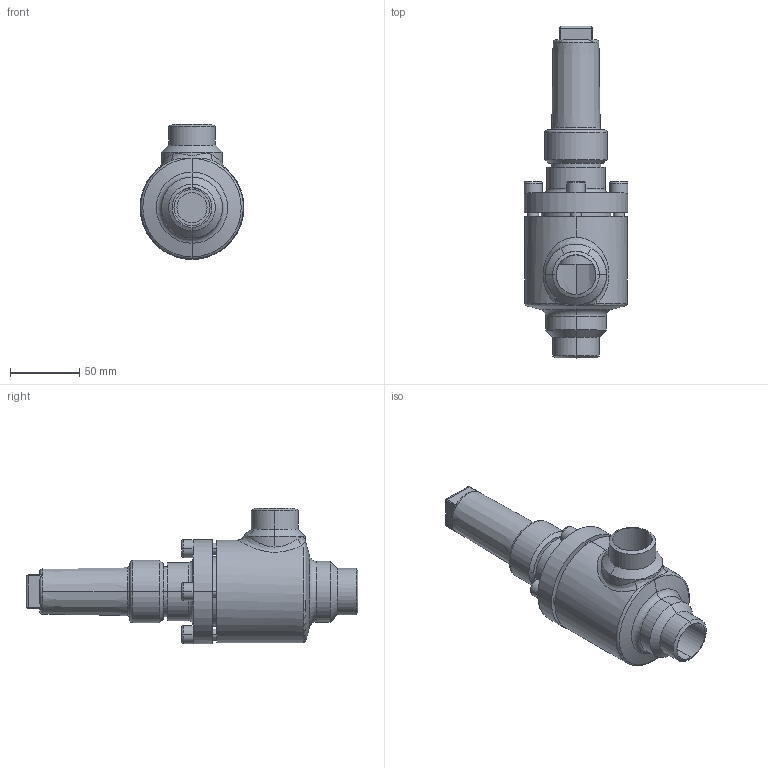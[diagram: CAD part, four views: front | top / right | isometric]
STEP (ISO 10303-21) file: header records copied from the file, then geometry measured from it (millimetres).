
FILE_DESCRIPTION (( 'STEP AP214' ), '1' );
FILE_NAME ('HRAR22400D12-DN025_R1_PS40.STEP', '2006-04-27T12:59:42', ( 'Herr Grams' ), ( 'AWP GmbH' ), 'SwSTEP 2.0', 'SolidWorks 2002296', '' );
FILE_SCHEMA (( 'AUTOMOTIVE_DESIGN' ));
Length unit declared in the file: millimetre
Products named in the file (6): HRAR22400D12-DN025_R1_PS40; AVR26300E13_Deck+Schr-DN25-32_Standard; Deckel26300E13-DN25-32_Standard; Zylinderschraube-DIN912_M 8x 25; Gehäuse16400-DN025_Standard; Kappe16402_DN010-32_Standard
Assembly tree (8 placements, depth 3):
  HRAR22400D12-DN025_R1_PS40
    AVR26300E13_Deck+Schr-DN25-32_Standard
      Zylinderschraube-DIN912_M 8x 25  x4
      Deckel26300E13-DN25-32_Standard
    Gehäuse16400-DN025_Standard
    Kappe16402_DN010-32_Standard
Bounding box: 75 x 239.5 x 97.5 mm (x, y, z)
Volume: 376944.7 mm3; surface area: 91753.9 mm2
Topology: 7 solids, 7 shells, 212 faces, 465 edges, 290 vertices
Faces by surface type: cylinder 83, plane 72, cone 31, torus 23, bspline 3
Entity records: 14921 total; most frequent: CARTESIAN_POINT 10714, DIRECTION 821, ORIENTED_EDGE 702, EDGE_CURVE 351, AXIS2_PLACEMENT_3D 348, VERTEX_POINT 218, EDGE_LOOP 187, CIRCLE 181
